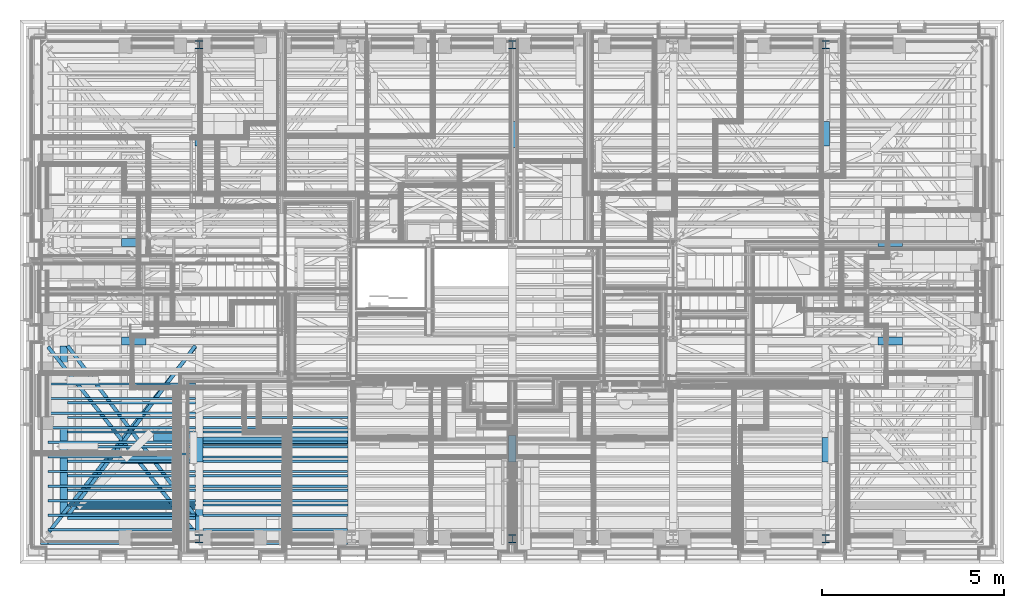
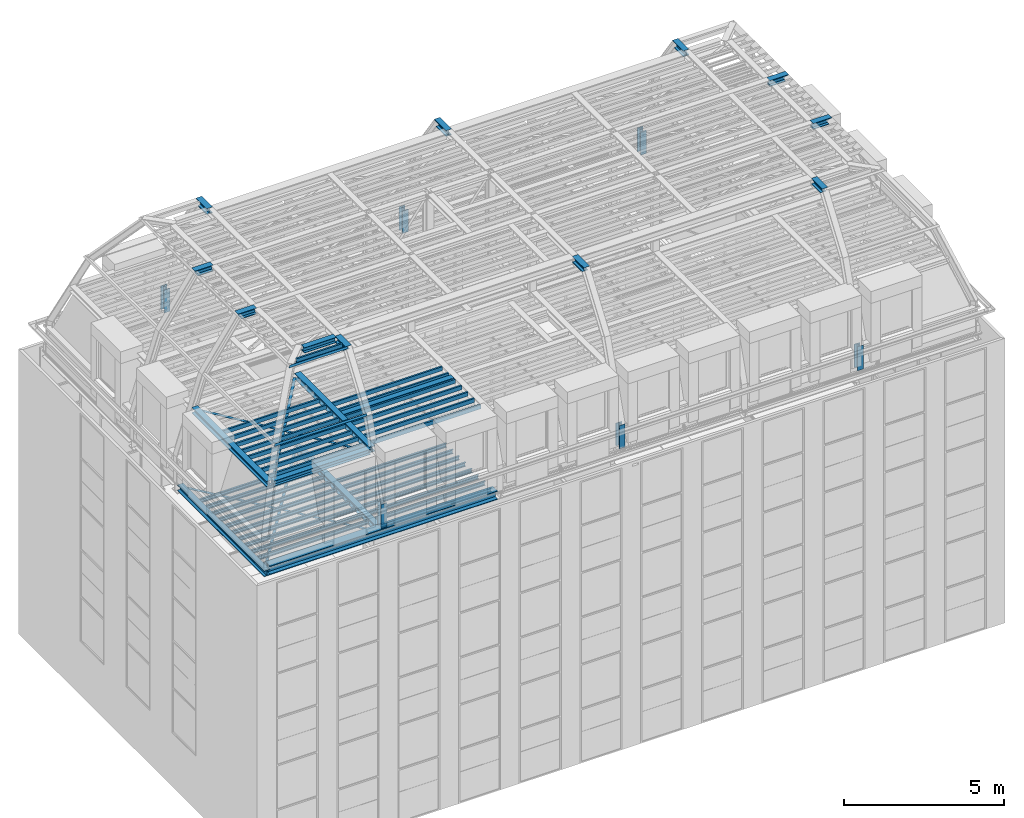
# One storey, part 3 of 183: 49 beams, 16 columns.
"""IFC2X3 building model written with IfcOpenShell, lengths in metres."""

from ifc_helpers import new_model, entity, si_unit, converted_unit, derived_unit, money_unit, direction, frame, frame_2d, origin_with_axes, place, context, subcontext, project, spatial, polyline, rectangle, outline, extrude, clip, halfspace, material, type_object, element, save


model = new_model("IFC2X3")

# Units and contexts
model_context = context("Model", 3, precision=1e-05, world=origin_with_axes(), true_north=direction((0.0, 1.0)))
body_context = subcontext(model_context, "Body", "Model", "MODEL_VIEW", scale=1.0)
ifc_project = project(units=[si_unit("LENGTHUNIT", "METRE"), si_unit("AREAUNIT", "SQUARE_METRE"), si_unit("VOLUMEUNIT", "CUBIC_METRE"), si_unit("ABSORBEDDOSEUNIT", "GRAY"), si_unit("AMOUNTOFSUBSTANCEUNIT", "MOLE"), si_unit("DOSEEQUIVALENTUNIT", "SIEVERT"), si_unit("ELECTRICCAPACITANCEUNIT", "FARAD"), si_unit("ELECTRICCHARGEUNIT", "COULOMB"), si_unit("ELECTRICCONDUCTANCEUNIT", "SIEMENS"), si_unit("ELECTRICCURRENTUNIT", "AMPERE"), si_unit("ELECTRICRESISTANCEUNIT", "OHM"), si_unit("ELECTRICVOLTAGEUNIT", "VOLT"), si_unit("ENERGYUNIT", "JOULE"), si_unit("FORCEUNIT", "NEWTON"), si_unit("FREQUENCYUNIT", "HERTZ"), si_unit("ILLUMINANCEUNIT", "LUX"), si_unit("INDUCTANCEUNIT", "HENRY"), si_unit("LUMINOUSFLUXUNIT", "LUMEN"), si_unit("LUMINOUSINTENSITYUNIT", "CANDELA"), si_unit("MAGNETICFLUXDENSITYUNIT", "TESLA"), si_unit("MAGNETICFLUXUNIT", "WEBER"), si_unit("MASSUNIT", "GRAM"), converted_unit("PLANEANGLEUNIT", "degree", entity("IfcReal", 0.0174532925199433), si_unit("PLANEANGLEUNIT", "RADIAN"), dimensions=[0, 0, 0, 0, 0, 0, 0]), si_unit("POWERUNIT", "WATT"), si_unit("PRESSUREUNIT", "PASCAL"), si_unit("RADIOACTIVITYUNIT", "BECQUEREL"), si_unit("SOLIDANGLEUNIT", "STERADIAN"), si_unit("THERMODYNAMICTEMPERATUREUNIT", "KELVIN"), si_unit("TIMEUNIT", "SECOND"), derived_unit("ACCELERATIONUNIT", [(si_unit("LENGTHUNIT", "METRE"), 1), (si_unit("TIMEUNIT", "SECOND"), -2)]), derived_unit("ANGULARVELOCITYUNIT", [(converted_unit("PLANEANGLEUNIT", "degree", entity("IfcReal", 0.0174532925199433), si_unit("PLANEANGLEUNIT", "RADIAN"), dimensions=[0, 0, 0, 0, 0, 0, 0]), 1), (si_unit("TIMEUNIT", "SECOND"), -1)]), derived_unit("CURVATUREUNIT", [(converted_unit("PLANEANGLEUNIT", "degree", entity("IfcReal", 0.0174532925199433), si_unit("PLANEANGLEUNIT", "RADIAN"), dimensions=[0, 0, 0, 0, 0, 0, 0]), 1), (si_unit("LENGTHUNIT", "METRE"), -1)]), derived_unit("DYNAMICVISCOSITYUNIT", [(si_unit("PRESSUREUNIT", "PASCAL"), 1), (si_unit("TIMEUNIT", "SECOND"), 1)]), derived_unit("HEATFLUXDENSITYUNIT", [(si_unit("POWERUNIT", "WATT"), 1), (si_unit("LENGTHUNIT", "METRE"), -2)]), derived_unit("HEATINGVALUEUNIT", [(si_unit("ENERGYUNIT", "JOULE"), 1), (si_unit("MASSUNIT", "GRAM"), -1)]), derived_unit("INTEGERCOUNTRATEUNIT", [(si_unit("TIMEUNIT", "SECOND"), -1)]), derived_unit("IONCONCENTRATIONUNIT", [(si_unit("MASSUNIT", "GRAM"), 1), (si_unit("VOLUMEUNIT", "CUBIC_METRE"), -1)]), derived_unit("ISOTHERMALMOISTURECAPACITYUNIT", [(si_unit("VOLUMEUNIT", "CUBIC_METRE"), 1), (si_unit("MASSUNIT", "GRAM"), -1)]), derived_unit("KINEMATICVISCOSITYUNIT", [(si_unit("AREAUNIT", "SQUARE_METRE"), 1), (si_unit("TIMEUNIT", "SECOND"), -1)]), derived_unit("LINEARFORCEUNIT", [(si_unit("FORCEUNIT", "NEWTON"), 1), (si_unit("LENGTHUNIT", "METRE"), -1)]), derived_unit("LINEARMOMENTUNIT", [(si_unit("FORCEUNIT", "NEWTON"), 1), (si_unit("LENGTHUNIT", "METRE"), -1)]), derived_unit("LINEARSTIFFNESSUNIT", [(si_unit("FORCEUNIT", "NEWTON"), 1), (si_unit("LENGTHUNIT", "METRE"), -1)]), derived_unit("LINEARVELOCITYUNIT", [(si_unit("LENGTHUNIT", "METRE"), 1), (si_unit("TIMEUNIT", "SECOND"), -1)]), derived_unit("LUMINOUSINTENSITYDISTRIBUTIONUNIT", [(si_unit("LUMINOUSINTENSITYUNIT", "CANDELA"), 1), (si_unit("LUMINOUSFLUXUNIT", "LUMEN"), -1)]), derived_unit("MASSDENSITYUNIT", [(si_unit("MASSUNIT", "GRAM"), 1), (si_unit("VOLUMEUNIT", "CUBIC_METRE"), -1)]), derived_unit("MASSFLOWRATEUNIT", [(si_unit("MASSUNIT", "GRAM"), 1), (si_unit("TIMEUNIT", "SECOND"), -1)]), derived_unit("MASSPERLENGTHUNIT", [(si_unit("MASSUNIT", "GRAM"), 1), (si_unit("LENGTHUNIT", "METRE"), -1)]), derived_unit("MODULUSOFELASTICITYUNIT", [(si_unit("FORCEUNIT", "NEWTON"), 1), (si_unit("AREAUNIT", "SQUARE_METRE"), -1)]), derived_unit("MODULUSOFLINEARSUBGRADEREACTIONUNIT", [(si_unit("FORCEUNIT", "NEWTON"), 1), (si_unit("LENGTHUNIT", "METRE"), -2)]), derived_unit("MODULUSOFROTATIONALSUBGRADEREACTIONUNIT", [(si_unit("FORCEUNIT", "NEWTON"), 1), (si_unit("LENGTHUNIT", "METRE"), 1)]), derived_unit("MODULUSOFSUBGRADEREACTIONUNIT", [(si_unit("FORCEUNIT", "NEWTON"), 1), (si_unit("VOLUMEUNIT", "CUBIC_METRE"), -1)]), derived_unit("MOISTUREDIFFUSIVITYUNIT", [(si_unit("VOLUMEUNIT", "CUBIC_METRE"), 1), (si_unit("TIMEUNIT", "SECOND"), -1)]), derived_unit("MOLECULARWEIGHTUNIT", [(si_unit("MASSUNIT", "GRAM"), 1), (si_unit("AMOUNTOFSUBSTANCEUNIT", "MOLE"), -1)]), derived_unit("PLANARFORCEUNIT", [(si_unit("FORCEUNIT", "NEWTON"), 1), (si_unit("LENGTHUNIT", "METRE"), -2)]), derived_unit("ROTATIONALFREQUENCYUNIT", [(si_unit("TIMEUNIT", "SECOND"), -1)]), derived_unit("ROTATIONALMASSUNIT", [(si_unit("MASSUNIT", "GRAM"), 1), (si_unit("LENGTHUNIT", "METRE"), 2)]), derived_unit("ROTATIONALSTIFFNESSUNIT", [(si_unit("FORCEUNIT", "NEWTON"), 1), (si_unit("LENGTHUNIT", "METRE"), 1), (converted_unit("PLANEANGLEUNIT", "degree", entity("IfcReal", 0.0174532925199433), si_unit("PLANEANGLEUNIT", "RADIAN"), dimensions=[0, 0, 0, 0, 0, 0, 0]), -1)]), derived_unit("SECTIONAREAINTEGRALUNIT", [(si_unit("LENGTHUNIT", "METRE"), 5)]), derived_unit("SECTIONMODULUSUNIT", [(si_unit("LENGTHUNIT", "METRE"), 3)]), derived_unit("SHEARMODULUSUNIT", [(si_unit("FORCEUNIT", "NEWTON"), 1), (si_unit("AREAUNIT", "SQUARE_METRE"), -1)]), derived_unit("SOUNDPOWERUNIT", [(si_unit("ENERGYUNIT", "JOULE"), 1), (si_unit("TIMEUNIT", "SECOND"), -1)]), derived_unit("SPECIFICHEATCAPACITYUNIT", [(si_unit("FORCEUNIT", "NEWTON"), 1), (si_unit("MASSUNIT", "GRAM"), -1), (si_unit("THERMODYNAMICTEMPERATUREUNIT", "KELVIN"), -1)]), derived_unit("TEMPERATUREGRADIENTUNIT", [(si_unit("THERMODYNAMICTEMPERATUREUNIT", "KELVIN"), 1), (si_unit("LENGTHUNIT", "METRE"), -1)]), derived_unit("THERMALADMITTANCEUNIT", [(si_unit("POWERUNIT", "WATT"), 1), (si_unit("AREAUNIT", "SQUARE_METRE"), -1), (si_unit("THERMODYNAMICTEMPERATUREUNIT", "KELVIN"), -1)]), derived_unit("THERMALCONDUCTANCEUNIT", [(si_unit("POWERUNIT", "WATT"), 1), (si_unit("LENGTHUNIT", "METRE"), -1), (si_unit("THERMODYNAMICTEMPERATUREUNIT", "KELVIN"), -1)]), derived_unit("THERMALEXPANSIONCOEFFICIENTUNIT", [(si_unit("THERMODYNAMICTEMPERATUREUNIT", "KELVIN"), -1)]), derived_unit("THERMALRESISTANCEUNIT", [(si_unit("AREAUNIT", "SQUARE_METRE"), 1), (si_unit("POWERUNIT", "WATT"), -1)]), derived_unit("THERMALTRANSMITTANCEUNIT", [(si_unit("POWERUNIT", "WATT"), 1), (si_unit("AREAUNIT", "SQUARE_METRE"), -1), (si_unit("THERMODYNAMICTEMPERATUREUNIT", "KELVIN"), -1)]), derived_unit("TORQUEUNIT", [(si_unit("FORCEUNIT", "NEWTON"), 1), (si_unit("LENGTHUNIT", "METRE"), 1)]), derived_unit("VAPORPERMEABILITYUNIT", [(si_unit("MASSUNIT", "GRAM"), 1), (si_unit("TIMEUNIT", "SECOND"), -1)]), derived_unit("VOLUMETRICFLOWRATEUNIT", [(si_unit("VOLUMEUNIT", "CUBIC_METRE"), 1), (si_unit("TIMEUNIT", "SECOND"), -1)]), derived_unit("WARPINGCONSTANTUNIT", [(si_unit("LENGTHUNIT", "METRE"), 6)]), derived_unit("WARPINGMOMENTUNIT", [(si_unit("FORCEUNIT", "NEWTON"), 1), (si_unit("LENGTHUNIT", "METRE"), 2)]), money_unit("GBP")], contexts=[model_context])

# Site, building, storey
site_placement = place(None, origin_with_axes())
site = spatial("IfcSite", under=ifc_project, at=site_placement, Name="Site", CompositionType="ELEMENT")
building_placement = place(site_placement, origin_with_axes())
building = spatial("IfcBuilding", under=site, at=building_placement, Name="Building01", CompositionType="ELEMENT")
storey_placement = place(building_placement, frame((0.0, 0.0, 5.15), z_axis=(0.0, 0.0, 1.0), x_axis=(1.0, 0.0, 0.0)))
storey = spatial("IfcBuildingStorey", under=building, at=storey_placement, Name="1F", CompositionType="ELEMENT", Elevation=5.15)

# Columns
ifc_material_1 = material(Name="A_BSUK_Columns_Steel")
column_type = type_object("IfcColumnType", Name="A-Columns-Steel", PredefinedType="COLUMN")
column_1_placement = place(storey_placement, frame((21.98485, 0.5613, 9.8349), z_axis=(0.0, 0.0, 1.0), x_axis=(1.0, 0.0, 0.0)))
element("IfcColumn", 1, at=column_1_placement, inside=storey, type_object=column_type, material=ifc_material_1, Name="UC203f", ObjectType="A-Columns-Steel", context=body_context, shape_type="Clipping", body=[
    clip(extrude(outline(polyline([(0.2103, 0.0), (0.2103, 0.0237), (0.1124, 0.0237), (0.1124, 0.2049), (0.2103, 0.2049), (0.2103, 0.2286), (0.0, 0.2286), (0.0, 0.2049), (0.0979, 0.2049), (0.0979, 0.0237), (0.0, 0.0237), (0.0, 0.0), (0.2103, 0.0)])), origin_with_axes(), (0.0, 0.0, 1.0), 0.914031), halfspace(frame((0.0, 0.141225, 0.891663), z_axis=(0.0, -0.15643447, -0.98768834), x_axis=(-1.0, 0.0, 0.0)), True)),
])
column_2_placement = place(storey_placement, frame((13.39485, 0.5613, 9.8603), z_axis=(0.0, 0.0, 1.0), x_axis=(1.0, 0.0, 0.0)))
element("IfcColumn", 2, at=column_2_placement, inside=storey, type_object=column_type, material=ifc_material_1, Name="UC203f", ObjectType="A-Columns-Steel", context=body_context, shape_type="Clipping", body=[
    clip(extrude(outline(polyline([(0.2103, 0.0), (0.2103, 0.0237), (0.1124, 0.0237), (0.1124, 0.2049), (0.2103, 0.2049), (0.2103, 0.2286), (0.0, 0.2286), (0.0, 0.2049), (0.0979, 0.2049), (0.0979, 0.0237), (0.0, 0.0237), (0.0, 0.0), (0.2103, 0.0)])), origin_with_axes(), (0.0, 0.0, 1.0), 0.888631), halfspace(frame((0.0, 0.137301, 0.866884), z_axis=(0.0, -0.15643447, -0.98768834), x_axis=(-1.0, 0.0, 0.0)), True)),
])
column_3_placement = place(storey_placement, frame((4.80485, 0.5613, 9.8349), z_axis=(0.0, 0.0, 1.0), x_axis=(1.0, 0.0, 0.0)))
element("IfcColumn", 3, at=column_3_placement, inside=storey, type_object=column_type, material=ifc_material_1, Name="UC203f", ObjectType="A-Columns-Steel", context=body_context, shape_type="Clipping", body=[
    clip(extrude(outline(polyline([(0.2103, 0.0), (0.2103, 0.0237), (0.1124, 0.0237), (0.1124, 0.2049), (0.2103, 0.2049), (0.2103, 0.2286), (0.0, 0.2286), (0.0, 0.2049), (0.0979, 0.2049), (0.0979, 0.0237), (0.0, 0.0237), (0.0, 0.0), (0.2103, 0.0)])), origin_with_axes(), (0.0, 0.0, 1.0), 0.914031), halfspace(frame((0.0, 0.141225, 0.891663), z_axis=(0.0, -0.15643447, -0.98768834), x_axis=(-1.0, 0.0, 0.0)), True)),
])
column_4_placement = place(storey_placement, frame((3.4512, 5.99485, 15.4236), z_axis=(-1.0, 0.0, 0.0), x_axis=(0.0, 1.0, 0.0)))
element("IfcColumn", 4, at=column_4_placement, inside=storey, type_object=column_type, material=ifc_material_1, Name="UC203f", ObjectType="A-Columns-Steel", context=body_context, shape_type="Clipping", body=[
    clip(clip(extrude(outline(polyline([(0.2103, 0.0), (0.2103, 0.0237), (0.1124, 0.0237), (0.1124, 0.2049), (0.2103, 0.2049), (0.2103, 0.2286), (0.0, 0.2286), (0.0, 0.2049), (0.0979, 0.2049), (0.0979, 0.0237), (0.0, 0.0237), (0.0, 0.0), (0.2103, 0.0)])), origin_with_axes(), (0.0, 0.0, 1.0), 0.669587), halfspace(frame((0.0, 0.274247, 0.526823), z_axis=(0.0, -0.46174861, -0.88701083), x_axis=(-1.0, 0.0, 0.0)), True)), halfspace(frame((0.0, 0.274247, 0.526823), z_axis=(0.0, -0.46174861, -0.88701083), x_axis=(-1.0, 0.0, 0.0)), True)),
])
for number, where, z_axis, x_axis, name in (
    (5, (24.198387, 8.69485, 15.4236), (-1.0, 0.0, 0.0), (0.0, 1.0, 0.0), "UC203f"),
    (6, (24.198387, 5.99485, 15.4236), (-1.0, 0.0, 0.0), (0.0, 1.0, 0.0), "UC203f"),
):
    element("IfcColumn", number, at=place(storey_placement, frame(where, z_axis=z_axis, x_axis=x_axis)), inside=storey, type_object=column_type, material=ifc_material_1, Name=name, ObjectType="A-Columns-Steel", context=body_context, shape_type="Clipping", body=[
        clip(clip(extrude(outline(polyline([(0.2103, 0.0), (0.2103, 0.0237), (0.1124, 0.0237), (0.1124, 0.2049), (0.2103, 0.2049), (0.2103, 0.2286), (0.0, 0.2286), (0.0, 0.2049), (0.0979, 0.2049), (0.0979, 0.0237), (0.0, 0.0237), (0.0, 0.0), (0.2103, 0.0)])), origin_with_axes(), (0.0, 0.0, 1.0), 0.669668), halfspace(frame((0.0, 0.0, 0.0), z_axis=(0.0, -0.46174861, 0.88701083), x_axis=(1.0, 0.0, 0.0)), True)), halfspace(frame((0.0, 0.0, 0.0), z_axis=(0.0, -0.46174861, 0.88701083), x_axis=(1.0, 0.0, 0.0)), True)),
    ])
column_5_placement = place(storey_placement, frame((21.98485, 2.776295, 15.4236), z_axis=(0.0, 1.0, 0.0), x_axis=(1.0, 0.0, 0.0)))
element("IfcColumn", 7, at=column_5_placement, inside=storey, type_object=column_type, material=ifc_material_1, Name="UC203f", ObjectType="A-Columns-Steel", context=body_context, shape_type="Clipping", body=[
    clip(extrude(outline(polyline([(0.2103, 0.0), (0.2103, 0.0237), (0.1124, 0.0237), (0.1124, 0.2049), (0.2103, 0.2049), (0.2103, 0.2286), (0.0, 0.2286), (0.0, 0.2049), (0.0979, 0.2049), (0.0979, 0.0237), (0.0, 0.0237), (0.0, 0.0), (0.2103, 0.0)])), origin_with_axes(), (0.0, 0.0, 1.0), 0.674505), halfspace(frame((0.0, 0.0, 0.0), z_axis=(0.0, -0.46178352, 0.88699266), x_axis=(1.0, 0.0, 0.0)), True)),
])
column_6_placement = place(storey_placement, frame((13.39485, 2.776295, 15.4236), z_axis=(0.0, 1.0, 0.0), x_axis=(1.0, 0.0, 0.0)))
element("IfcColumn", 8, at=column_6_placement, inside=storey, type_object=column_type, material=ifc_material_1, Name="UC203f", ObjectType="A-Columns-Steel", context=body_context, shape_type="Clipping", body=[
    clip(extrude(outline(polyline([(0.2103, 0.0), (0.2103, 0.0237), (0.1124, 0.0237), (0.1124, 0.2049), (0.2103, 0.2049), (0.2103, 0.2286), (0.0, 0.2286), (0.0, 0.2049), (0.0979, 0.2049), (0.0979, 0.0237), (0.0, 0.0237), (0.0, 0.0), (0.2103, 0.0)])), origin_with_axes(), (0.0, 0.0, 1.0), 0.724505), halfspace(frame((0.0, 0.0, 0.0), z_axis=(0.0, -0.46178352, 0.88699266), x_axis=(1.0, 0.0, 0.0)), True)),
])
column_7_placement = place(storey_placement, frame((4.80485, 2.776295, 15.4236), z_axis=(0.0, 1.0, 0.0), x_axis=(1.0, 0.0, 0.0)))
element("IfcColumn", 9, at=column_7_placement, inside=storey, type_object=column_type, material=ifc_material_1, Name="UC203f", ObjectType="A-Columns-Steel", context=body_context, shape_type="Clipping", body=[
    clip(extrude(outline(polyline([(0.2103, 0.0), (0.2103, 0.0237), (0.1124, 0.0237), (0.1124, 0.2049), (0.2103, 0.2049), (0.2103, 0.2286), (0.0, 0.2286), (0.0, 0.2049), (0.0979, 0.2049), (0.0979, 0.0237), (0.0, 0.0237), (0.0, 0.0), (0.2103, 0.0)])), origin_with_axes(), (0.0, 0.0, 1.0), 0.674505), halfspace(frame((0.0, 0.0, 0.0), z_axis=(0.0, -0.46178352, 0.88699266), x_axis=(1.0, 0.0, 0.0)), True)),
])
column_8_placement = place(storey_placement, frame((3.4512, 8.69485, 15.4236), z_axis=(-1.0, 0.0, 0.0), x_axis=(0.0, 1.0, 0.0)))
element("IfcColumn", 10, at=column_8_placement, inside=storey, type_object=column_type, material=ifc_material_1, Name="UC203f", ObjectType="A-Columns-Steel", context=body_context, shape_type="Clipping", body=[
    clip(clip(extrude(outline(polyline([(0.2103, 0.0), (0.2103, 0.0237), (0.1124, 0.0237), (0.1124, 0.2049), (0.2103, 0.2049), (0.2103, 0.2286), (0.0, 0.2286), (0.0, 0.2049), (0.0979, 0.2049), (0.0979, 0.0237), (0.0, 0.0237), (0.0, 0.0), (0.2103, 0.0)])), origin_with_axes(), (0.0, 0.0, 1.0), 0.669587), halfspace(frame((0.0, 0.274247, 0.526823), z_axis=(0.0, -0.46174861, -0.88701083), x_axis=(-1.0, 0.0, 0.0)), True)), halfspace(frame((0.0, 0.274247, 0.526823), z_axis=(0.0, -0.46174861, -0.88701083), x_axis=(-1.0, 0.0, 0.0)), True)),
])
column_9_placement = place(storey_placement, frame((4.80485, 14.3387, 10.748931), z_axis=(0.0, 0.0, -1.0), x_axis=(0.0, -1.0, 0.0)))
element("IfcColumn", 11, at=column_9_placement, inside=storey, type_object=column_type, material=ifc_material_1, Name="A2", ObjectType="A-Columns-Steel", context=body_context, shape_type="Clipping", body=[
    clip(extrude(outline(polyline([(0.0237, 0.0), (0.0237, -0.0979), (0.2049, -0.0979), (0.2049, 0.0), (0.2286, 0.0), (0.2286, -0.2103), (0.2049, -0.2103), (0.2049, -0.1124), (0.0237, -0.1124), (0.0237, -0.2103), (0.0, -0.2103), (0.0, 0.0), (0.0237, 0.0)])), origin_with_axes(), (0.0, 0.0, 1.0), 0.914031), halfspace(frame((0.0, 0.0, 0.0), z_axis=(-0.15643447, 0.0, 0.98768834), x_axis=(0.98768834, 0.0, 0.15643447)), True)),
])
column_10_placement = place(storey_placement, frame((13.39485, 14.3387, 10.748931), z_axis=(0.0, 0.0, -1.0), x_axis=(0.0, -1.0, 0.0)))
element("IfcColumn", 12, at=column_10_placement, inside=storey, type_object=column_type, material=ifc_material_1, Name="A2", ObjectType="A-Columns-Steel", context=body_context, shape_type="Clipping", body=[
    clip(extrude(outline(polyline([(0.0237, 0.0), (0.0237, -0.0979), (0.2049, -0.0979), (0.2049, 0.0), (0.2286, 0.0), (0.2286, -0.2103), (0.2049, -0.2103), (0.2049, -0.1124), (0.0237, -0.1124), (0.0237, -0.2103), (0.0, -0.2103), (0.0, 0.0), (0.0237, 0.0)])), origin_with_axes(), (0.0, 0.0, 1.0), 0.888631), halfspace(frame((0.0, 0.0, 0.0), z_axis=(-0.15643447, 0.0, 0.98768834), x_axis=(0.98768834, 0.0, 0.15643447)), True)),
])
column_11_placement = place(storey_placement, frame((21.98485, 14.3387, 10.748931), z_axis=(0.0, 0.0, -1.0), x_axis=(0.0, -1.0, 0.0)))
element("IfcColumn", 13, at=column_11_placement, inside=storey, type_object=column_type, material=ifc_material_1, Name="A2", ObjectType="A-Columns-Steel", context=body_context, shape_type="Clipping", body=[
    clip(extrude(outline(polyline([(0.0237, 0.0), (0.0237, -0.0979), (0.2049, -0.0979), (0.2049, 0.0), (0.2286, 0.0), (0.2286, -0.2103), (0.2049, -0.2103), (0.2049, -0.1124), (0.0237, -0.1124), (0.0237, -0.2103), (0.0, -0.2103), (0.0, 0.0), (0.0237, 0.0)])), origin_with_axes(), (0.0, 0.0, 1.0), 0.914031), halfspace(frame((0.0, 0.0, 0.0), z_axis=(-0.15643447, 0.0, 0.98768834), x_axis=(0.98768834, 0.0, 0.15643447)), True)),
])
column_12_placement = place(storey_placement, frame((13.39485, 11.3992, 15.4236), z_axis=(0.0, 1.0, 0.0), x_axis=(1.0, 0.0, 0.0)))
element("IfcColumn", 14, at=column_12_placement, inside=storey, type_object=column_type, material=ifc_material_1, Name="A2", ObjectType="A-Columns-Steel", context=body_context, shape_type="Clipping", body=[
    clip(extrude(outline(polyline([(0.2103, 0.0), (0.2103, 0.0237), (0.1124, 0.0237), (0.1124, 0.2049), (0.2103, 0.2049), (0.2103, 0.2286), (0.0, 0.2286), (0.0, 0.2049), (0.0979, 0.2049), (0.0979, 0.0237), (0.0, 0.0237), (0.0, 0.0), (0.2103, 0.0)])), origin_with_axes(), (0.0, 0.0, 1.0), 0.724505), halfspace(frame((0.0, 0.296756, 0.570009), z_axis=(0.0, -0.46178352, -0.88699266), x_axis=(-1.0, 0.0, 0.0)), True)),
])
for number, where, z_axis, x_axis, name in (
    (15, (21.98485, 11.4492, 15.4236), (0.0, 1.0, 0.0), (1.0, 0.0, 0.0), "A2"),
    (16, (4.80485, 11.4492, 15.4236), (0.0, 1.0, 0.0), (1.0, 0.0, 0.0), "A2"),
):
    element("IfcColumn", number, at=place(storey_placement, frame(where, z_axis=z_axis, x_axis=x_axis)), inside=storey, type_object=column_type, material=ifc_material_1, Name=name, ObjectType="A-Columns-Steel", context=body_context, shape_type="Clipping", body=[
        clip(extrude(outline(polyline([(0.2103, 0.0), (0.2103, 0.0237), (0.1124, 0.0237), (0.1124, 0.2049), (0.2103, 0.2049), (0.2103, 0.2286), (0.0, 0.2286), (0.0, 0.2049), (0.0979, 0.2049), (0.0979, 0.0237), (0.0, 0.0237), (0.0, 0.0), (0.2103, 0.0)])), origin_with_axes(), (0.0, 0.0, 1.0), 0.674505), halfspace(frame((0.0, 0.276276, 0.530671), z_axis=(0.0, -0.46178352, -0.88699266), x_axis=(-1.0, 0.0, 0.0)), True)),
    ])

# Beams
ifc_material_2 = material(Name="A_BSUK_Beams_Steel")
beam_type_1 = type_object("IfcBeamType", Name="A-Beams-Steel", PredefinedType="BEAM")
beam_1_placement = place(storey_placement, frame((0.56, 5.9408, 9.5078), z_axis=(0.0, -1.0, 0.0), x_axis=(1.0, 0.0, 0.0)))
element("IfcBeam", 17, at=beam_1_placement, inside=storey, type_object=beam_type_1, material=ifc_material_2, Name="4F", ObjectType="A-Beams-Steel", context=body_context, shape_type="SweptSolid", body=[
    extrude(outline(polyline([(0.2091, 0.0), (0.2091, 0.0205), (0.1109, 0.0205), (0.1109, 0.2017), (0.2091, 0.2017), (0.2091, 0.2222), (0.0, 0.2222), (0.0, 0.2017), (0.0982, 0.2017), (0.0982, 0.0205), (0.0, 0.0205), (0.0, 0.0), (0.2091, 0.0)])), origin_with_axes(), (0.0, 0.0, 1.0), 5.4208),
])
beam_2_placement = place(storey_placement, frame((4.80545, 5.9408, 9.5078), z_axis=(0.0, -1.0, 0.0), x_axis=(1.0, 0.0, 0.0)))
element("IfcBeam", 18, at=beam_2_placement, inside=storey, type_object=beam_type_1, material=ifc_material_2, Name="4F", ObjectType="A-Beams-Steel", context=body_context, shape_type="SweptSolid", body=[
    extrude(outline(polyline([(0.2091, 0.0), (0.2091, 0.0205), (0.1109, 0.0205), (0.1109, 0.2017), (0.2091, 0.2017), (0.2091, 0.2222), (0.0, 0.2222), (0.0, 0.2017), (0.0982, 0.2017), (0.0982, 0.0205), (0.0, 0.0205), (0.0, 0.0), (0.2091, 0.0)])), origin_with_axes(), (0.0, 0.0, 1.0), 5.1096),
])
beam_3_placement = place(storey_placement, frame((0.7691, 0.52, 9.5078), z_axis=(1.0, 0.0, 0.0), x_axis=(0.0, 1.0, 0.0)))
element("IfcBeam", 19, at=beam_3_placement, inside=storey, type_object=beam_type_1, material=ifc_material_2, Name="4F", ObjectType="A-Beams-Steel", context=body_context, shape_type="SweptSolid", body=[
    extrude(outline(polyline([(0.3112, 0.0), (0.3112, 0.025), (0.1635, 0.025), (0.1635, 0.3021), (0.3112, 0.3021), (0.3112, 0.3271), (0.0, 0.3271), (0.0, 0.3021), (0.1477, 0.3021), (0.1477, 0.025), (0.0, 0.025), (0.0, 0.0), (0.3112, 0.0)])), origin_with_axes(), (0.0, 0.0, 1.0), 8.21635),
])
beam_4_placement = place(storey_placement, frame((1.3032, 1.1982, 12.2768), z_axis=(1.0, 0.0, 0.0), x_axis=(0.0, 1.0, 0.0)))
element("IfcBeam", 20, at=beam_4_placement, inside=storey, type_object=beam_type_1, material=ifc_material_2, Name="5F", ObjectType="A-Beams-Steel", context=body_context, shape_type="SweptSolid", body=[
    extrude(outline(polyline([(0.2036, 0.0), (0.2036, 0.011), (0.1054, 0.011), (0.1054, 0.1922), (0.2036, 0.1922), (0.2036, 0.2032), (0.0, 0.2032), (0.0, 0.1922), (0.0982, 0.1922), (0.0982, 0.011), (0.0, 0.011), (0.0, 0.0), (0.2036, 0.0)])), origin_with_axes(), (0.0, 0.0, 1.0), 3.50225),
])
for number, where, z_axis, x_axis, name in (
    (21, (1.0968, 5.967373, 12.2642), (0.0, -1.0, 0.0), (1.0, 0.0, 0.0), "5F"),
    (22, (4.8068, 5.967373, 12.2642), (0.0, -1.0, 0.0), (1.0, 0.0, 0.0), "5F"),
):
    element("IfcBeam", number, at=place(storey_placement, frame(where, z_axis=z_axis, x_axis=x_axis)), inside=storey, type_object=beam_type_1, material=ifc_material_2, Name=name, ObjectType="A-Beams-Steel", context=body_context, shape_type="SweptSolid", body=[
        extrude(outline(polyline([(0.2064, 0.0), (0.2064, 0.0173), (0.1082, 0.0173), (0.1082, 0.1985), (0.2064, 0.1985), (0.2064, 0.2158), (0.0, 0.2158), (0.0, 0.1985), (0.0982, 0.1985), (0.0982, 0.0173), (0.0, 0.0173), (0.0, 0.0), (0.2064, 0.0)])), origin_with_axes(), (0.0, 0.0, 1.0), 4.665573),
    ])
beam_5_placement = place(storey_placement, frame((5.0132, 3.2582, 12.2768), z_axis=(1.0, 0.0, 0.0), x_axis=(0.0, 1.0, 0.0)))
element("IfcBeam", 23, at=beam_5_placement, inside=storey, type_object=beam_type_1, material=ifc_material_2, Name="5F", ObjectType="A-Beams-Steel", context=body_context, shape_type="SweptSolid", body=[
    extrude(outline(polyline([(0.2036, 0.0), (0.2036, 0.011), (0.1054, 0.011), (0.1054, 0.1922), (0.2036, 0.1922), (0.2036, 0.2032), (0.0, 0.2032), (0.0, 0.1922), (0.0982, 0.1922), (0.0982, 0.011), (0.0, 0.011), (0.0, 0.0), (0.2036, 0.0)])), origin_with_axes(), (0.0, 0.0, 1.0), 3.9736),
])
beam_6_placement = place(storey_placement, frame((3.6548, 3.3608, 15.2268), z_axis=(1.0, 0.0, 0.0), x_axis=(0.0, 1.0, 0.0)))
element("IfcBeam", 24, at=beam_6_placement, inside=storey, type_object=beam_type_1, material=ifc_material_2, Name="RP", ObjectType="A-Beams-Steel", context=body_context, shape_type="SweptSolid", body=[
    extrude(outline(polyline([(0.2036, 0.0), (0.2036, 0.011), (0.1054, 0.011), (0.1054, 0.1922), (0.2036, 0.1922), (0.2036, 0.2032), (0.0, 0.2032), (0.0, 0.1922), (0.0982, 0.1922), (0.0982, 0.011), (0.0, 0.011), (0.0, 0.0), (0.2036, 0.0)])), origin_with_axes(), (0.0, 0.0, 1.0), 1.153422),
])
for number, where, z_axis, x_axis, name in (
    (25, (0.729865, 5.909806, 9.568), (0.61987655, -0.78469935, 0.0), (0.78469935, 0.61987655, 0.0), "4F"),
    (26, (4.766215, 5.971794, 9.558), (-0.61987655, -0.78469935, 0.0), (0.78469935, -0.61987655, 0.0), "4F"),
):
    element("IfcBeam", number, at=place(storey_placement, frame(where, z_axis=z_axis, x_axis=x_axis)), inside=storey, type_object=beam_type_1, material=ifc_material_2, Name=name, ObjectType="A-Beams-Steel", context=body_context, shape_type="SweptSolid", body=[
        extrude(rectangle(XDim=0.01, YDim=0.1, at=frame_2d((0.05, 0.005), x_axis=(0.0, 1.0))), origin_with_axes(), (0.0, 0.0, 1.0), 6.511538),
    ])
beam_7_placement = place(storey_placement, frame((1.263218, 5.937349, 12.318), z_axis=(0.60048471, -0.79963624, 0.0), x_axis=(0.79963624, 0.60048471, 0.0)))
element("IfcBeam", 27, at=beam_7_placement, inside=storey, type_object=beam_type_1, material=ifc_material_2, Name="5F", ObjectType="A-Beams-Steel", context=body_context, shape_type="SweptSolid", body=[
    extrude(rectangle(XDim=0.01, YDim=0.1, at=frame_2d((0.05, 0.005), x_axis=(0.0, 1.0))), origin_with_axes(), (0.0, 0.0, 1.0), 5.83462),
])
beam_8_placement = place(storey_placement, frame((4.766824, 5.997405, 12.308), z_axis=(-0.60063811, -0.79952102, 0.0), x_axis=(0.79952102, -0.60063811, 0.0)))
element("IfcBeam", 28, at=beam_8_placement, inside=storey, type_object=beam_type_1, material=ifc_material_2, Name="5F", ObjectType="A-Beams-Steel", context=body_context, shape_type="SweptSolid", body=[
    extrude(rectangle(XDim=0.01, YDim=0.1, at=frame_2d((0.05, 0.005), x_axis=(0.0, 1.0))), origin_with_axes(), (0.0, 0.0, 1.0), 5.835461),
])
beam_9_placement = place(storey_placement, frame((4.836806, 1.684227, 13.514975), z_axis=(-1.0, 0.0, 0.0), x_axis=(0.0, -0.57351196, -0.81919718)))
element("IfcBeam", 29, at=beam_9_placement, inside=storey, type_object=beam_type_1, material=ifc_material_2, Name="5F", ObjectType="A-Beams-Steel", context=body_context, shape_type="Clipping", body=[
    clip(clip(extrude(outline(polyline([(0.075, 0.0), (0.075, 0.012), (0.006, 0.012), (0.006, 0.188), (0.075, 0.188), (0.075, 0.2), (0.0, 0.2), (0.0, 0.0), (0.075, 0.0)])), origin_with_axes(), (0.0, 0.0, 1.0), 3.354332), halfspace(frame((-0.902558, -1.289203, 1.57374), z_axis=(0.4055342, 0.57925988, -0.70710678), x_axis=(-0.86746356, 0.0, -0.49750073)), True)), halfspace(frame((-5.865269, -8.377875, -10.226934), z_axis=(0.4055342, 0.57925988, 0.70710678), x_axis=(0.86746356, 0.0, -0.49750073)), True)),
])
beam_10_placement = place(storey_placement, frame((4.858173, 2.940134, 15.308898), z_axis=(-1.0, 0.0, 0.0), x_axis=(0.0, -0.57351196, -0.81919718)))
element("IfcBeam", 30, at=beam_10_placement, inside=storey, type_object=beam_type_1, material=ifc_material_2, Name="RP", ObjectType="A-Beams-Steel", context=body_context, shape_type="Clipping", body=[
    clip(clip(extrude(outline(polyline([(0.075, 0.0), (0.075, 0.012), (0.006, 0.012), (0.006, 0.188), (0.075, 0.188), (0.075, 0.2), (0.0, 0.2), (0.0, 0.0), (0.075, 0.0)])), origin_with_axes(), (0.0, 0.0, 1.0), 2.119791), halfspace(frame((-0.548546, -0.783537, 0.956469), z_axis=(0.4055342, 0.57925988, -0.70710678), x_axis=(-0.86746356, 0.0, -0.49750073)), True)), halfspace(frame((-5.499003, -7.854706, -9.588297), z_axis=(0.4055342, 0.57925988, 0.70710678), x_axis=(0.86746356, 0.0, -0.49750073)), True)),
])
beam_type_2 = type_object("IfcBeamType", Name="SHE_A-Beams-Steel-Purlin_150m15", PredefinedType="BEAM")
for number, where, z_axis, x_axis, name in (
    (31, (8.98545, 0.952, 9.578), (-1.0, 0.0, 0.0), (0.0, -1.0, 0.0), "4F"),
    (32, (8.98545, 1.352, 9.578), (-1.0, 0.0, 0.0), (0.0, -1.0, 0.0), "4F"),
    (33, (8.98545, 1.752, 9.578), (-1.0, 0.0, 0.0), (0.0, -1.0, 0.0), "4F"),
    (34, (8.98545, 2.152, 9.578), (-1.0, 0.0, 0.0), (0.0, -1.0, 0.0), "4F"),
    (35, (8.98545, 2.552, 9.578), (-1.0, 0.0, 0.0), (0.0, -1.0, 0.0), "4F"),
    (36, (8.98545, 2.952, 9.578), (-1.0, 0.0, 0.0), (0.0, -1.0, 0.0), "4F"),
    (37, (8.98545, 3.352, 9.578), (-1.0, 0.0, 0.0), (0.0, -1.0, 0.0), "4F"),
    (38, (8.98545, 3.752, 9.578), (-1.0, 0.0, 0.0), (0.0, -1.0, 0.0), "4F"),
):
    element("IfcBeam", number, at=place(storey_placement, frame(where, z_axis=z_axis, x_axis=x_axis)), inside=storey, type_object=beam_type_2, material=ifc_material_2, Name=name, ObjectType="SHE_A-Beams-Steel-Purlin_150m15", context=body_context, shape_type="SweptSolid", body=[
        extrude(outline(polyline([(0.064, 0.0), (0.064, 0.0155), (0.0625, 0.0155), (0.0625, 0.0015), (0.0015, 0.0015), (0.0015, 0.1505), (0.0625, 0.1505), (0.0625, 0.1365), (0.064, 0.1365), (0.064, 0.152), (0.0, 0.152), (0.0, 0.0), (0.064, 0.0)])), origin_with_axes(), (0.0, 0.0, 1.0), 3.9709),
    ])
for number, where, z_axis, x_axis, name in (
    (39, (1.3032, 1.5698, 12.328), (1.0, 0.0, 0.0), (0.0, 1.0, 0.0), "5F"),
    (40, (1.3032, 1.9698, 12.328), (1.0, 0.0, 0.0), (0.0, 1.0, 0.0), "5F"),
    (41, (1.3032, 2.3698, 12.328), (1.0, 0.0, 0.0), (0.0, 1.0, 0.0), "5F"),
    (42, (1.3032, 2.7698, 12.328), (1.0, 0.0, 0.0), (0.0, 1.0, 0.0), "5F"),
    (43, (1.3032, 3.1698, 12.328), (1.0, 0.0, 0.0), (0.0, 1.0, 0.0), "5F"),
    (44, (1.3032, 3.5698, 12.328), (1.0, 0.0, 0.0), (0.0, 1.0, 0.0), "5F"),
    (45, (1.3032, 3.9698, 12.328), (1.0, 0.0, 0.0), (0.0, 1.0, 0.0), "5F"),
    (46, (1.3032, 4.3698, 12.328), (1.0, 0.0, 0.0), (0.0, 1.0, 0.0), "5F"),
):
    element("IfcBeam", number, at=place(storey_placement, frame(where, z_axis=z_axis, x_axis=x_axis)), inside=storey, type_object=beam_type_2, material=ifc_material_2, Name=name, ObjectType="SHE_A-Beams-Steel-Purlin_150m15", context=body_context, shape_type="SweptSolid", body=[
        extrude(outline(polyline([(0.064, 0.0), (0.064, 0.0155), (0.0625, 0.0155), (0.0625, 0.0015), (0.0015, 0.0015), (0.0015, 0.1505), (0.0625, 0.1505), (0.0625, 0.1365), (0.064, 0.1365), (0.064, 0.152), (0.0, 0.152), (0.0, 0.0), (0.064, 0.0)])), origin_with_axes(), (0.0, 0.0, 1.0), 3.5036),
    ])
for number, where, z_axis, x_axis, name in (
    (47, (4.80545, 0.952, 9.578), (-1.0, 0.0, 0.0), (0.0, -1.0, 0.0), "4F"),
    (48, (4.80545, 1.352, 9.578), (-1.0, 0.0, 0.0), (0.0, -1.0, 0.0), "4F"),
    (49, (4.80545, 1.752, 9.578), (-1.0, 0.0, 0.0), (0.0, -1.0, 0.0), "4F"),
    (50, (4.80545, 2.152, 9.578), (-1.0, 0.0, 0.0), (0.0, -1.0, 0.0), "4F"),
    (51, (4.80545, 2.552, 9.578), (-1.0, 0.0, 0.0), (0.0, -1.0, 0.0), "4F"),
    (52, (4.80545, 2.952, 9.578), (-1.0, 0.0, 0.0), (0.0, -1.0, 0.0), "4F"),
    (53, (4.80545, 3.352, 9.578), (-1.0, 0.0, 0.0), (0.0, -1.0, 0.0), "4F"),
    (54, (4.80545, 3.752, 9.578), (-1.0, 0.0, 0.0), (0.0, -1.0, 0.0), "4F"),
    (55, (4.80545, 4.152, 9.578), (-1.0, 0.0, 0.0), (0.0, -1.0, 0.0), "4F"),
    (56, (4.80545, 4.552, 9.578), (-1.0, 0.0, 0.0), (0.0, -1.0, 0.0), "4F"),
    (57, (4.80545, 4.952, 9.578), (-1.0, 0.0, 0.0), (0.0, -1.0, 0.0), "4F"),
):
    element("IfcBeam", number, at=place(storey_placement, frame(where, z_axis=z_axis, x_axis=x_axis)), inside=storey, type_object=beam_type_2, material=ifc_material_2, Name=name, ObjectType="SHE_A-Beams-Steel-Purlin_150m15", context=body_context, shape_type="SweptSolid", body=[
        extrude(outline(polyline([(0.064, 0.0), (0.064, 0.0155), (0.0625, 0.0155), (0.0625, 0.0015), (0.0015, 0.0015), (0.0015, 0.1505), (0.0625, 0.1505), (0.0625, 0.1365), (0.064, 0.1365), (0.064, 0.152), (0.0, 0.152), (0.0, 0.0), (0.064, 0.0)])), origin_with_axes(), (0.0, 0.0, 1.0), 4.03635),
    ])
for number, where, z_axis, x_axis, name in (
    (58, (5.0132, 1.5698, 12.328), (1.0, 0.0, 0.0), (0.0, 1.0, 0.0), "5F"),
    (59, (5.0132, 1.9698, 12.328), (1.0, 0.0, 0.0), (0.0, 1.0, 0.0), "5F"),
    (60, (5.0132, 2.3698, 12.328), (1.0, 0.0, 0.0), (0.0, 1.0, 0.0), "5F"),
    (61, (5.0132, 2.7698, 12.328), (1.0, 0.0, 0.0), (0.0, 1.0, 0.0), "5F"),
    (62, (5.0132, 3.1698, 12.328), (1.0, 0.0, 0.0), (0.0, 1.0, 0.0), "5F"),
    (63, (5.0132, 3.9698, 12.328), (1.0, 0.0, 0.0), (0.0, 1.0, 0.0), "5F"),
    (64, (5.0132, 3.5698, 12.328), (1.0, 0.0, 0.0), (0.0, 1.0, 0.0), "5F"),
):
    element("IfcBeam", number, at=place(storey_placement, frame(where, z_axis=z_axis, x_axis=x_axis)), inside=storey, type_object=beam_type_2, material=ifc_material_2, Name=name, ObjectType="SHE_A-Beams-Steel-Purlin_150m15", context=body_context, shape_type="SweptSolid", body=[
        extrude(outline(polyline([(0.064, 0.0), (0.064, 0.0155), (0.0625, 0.0155), (0.0625, 0.0015), (0.0015, 0.0015), (0.0015, 0.1505), (0.0625, 0.1505), (0.0625, 0.1365), (0.064, 0.1365), (0.064, 0.152), (0.0, 0.152), (0.0, 0.0), (0.064, 0.0)])), origin_with_axes(), (0.0, 0.0, 1.0), 3.9736),
    ])
beam_11_placement = place(storey_placement, frame((3.13262, 2.966407, 15.278), z_axis=(1.0, 0.0, 0.0), x_axis=(0.0, 1.0, 0.0)))
element("IfcBeam", 65, at=beam_11_placement, inside=storey, type_object=beam_type_2, material=ifc_material_2, Name="RP", ObjectType="SHE_A-Beams-Steel-Purlin_150m15", context=body_context, shape_type="SweptSolid", body=[
    extrude(outline(polyline([(0.064, 0.0), (0.064, 0.0155), (0.0625, 0.0155), (0.0625, 0.0015), (0.0015, 0.0015), (0.0015, 0.1505), (0.0625, 0.1505), (0.0625, 0.1365), (0.064, 0.1365), (0.064, 0.152), (0.0, 0.152), (0.0, 0.0), (0.064, 0.0)])), origin_with_axes(), (0.0, 0.0, 1.0), 1.67223),
])

save(model, "model.ifc")
